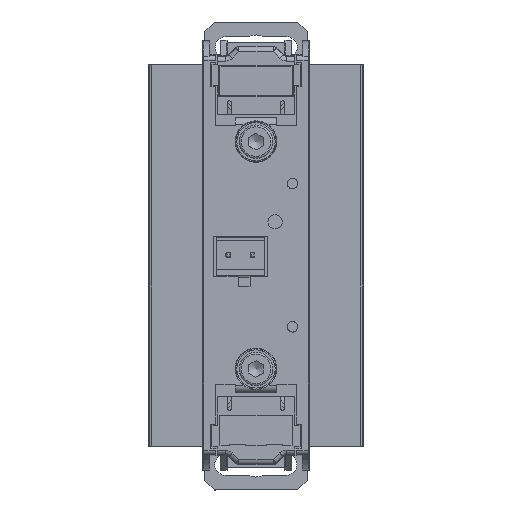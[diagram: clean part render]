
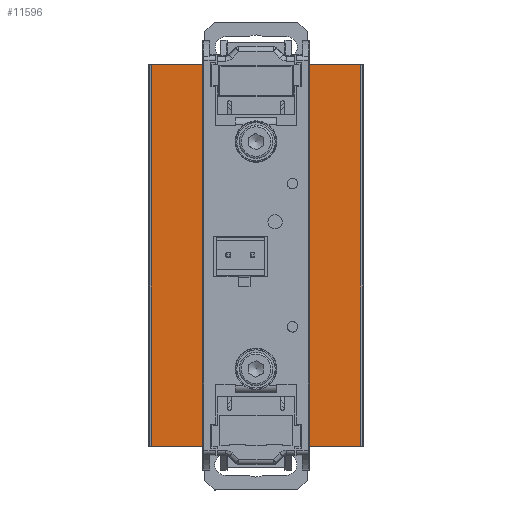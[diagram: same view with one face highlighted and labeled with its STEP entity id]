
A CAD part, top view. The second image highlights one B-rep face of the part: STEP entity #11596.
In plain terms, the highlighted planar face has unit normal (0, 0, 1) as drawn and (-0.706, 0.584, 0.402) by its records, which use the part's own axes.
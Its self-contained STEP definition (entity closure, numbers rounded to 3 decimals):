
#4144=CARTESIAN_POINT('',(33.476,29.839,23.555));
#4145=VERTEX_POINT('',#4144);
#4146=CARTESIAN_POINT('',(32.465,29.446,22.351));
#4147=DIRECTION('',(0.706,-0.584,-0.402));
#4148=DIRECTION('',(0.624,0.243,0.743));
#4149=AXIS2_PLACEMENT_3D('',#4146,#4147,#4148);
#4150=CIRCLE('',#4149,1.621);
#4151=EDGE_CURVE('',#4145,#4145,#4150,.T.);
#4223=CARTESIAN_POINT('',(49.461,66.728,-1.929));
#4224=VERTEX_POINT('',#4223);
#4225=CARTESIAN_POINT('',(48.449,66.335,-3.133));
#4226=DIRECTION('',(0.706,-0.584,-0.402));
#4227=DIRECTION('',(0.624,0.243,0.743));
#4228=AXIS2_PLACEMENT_3D('',#4225,#4226,#4227);
#4229=CIRCLE('',#4228,1.621);
#4230=EDGE_CURVE('',#4224,#4224,#4229,.T.);
#6650=CARTESIAN_POINT('',(67.587,84.217,4.496));
#6651=VERTEX_POINT('',#6650);
#6659=CARTESIAN_POINT('',(40.723,22.218,47.327));
#6660=VERTEX_POINT('',#6659);
#6661=CARTESIAN_POINT('',(67.587,84.217,4.496));
#6662=DIRECTION('',(-0.336,-0.775,0.535));
#6663=VECTOR('',#6662,80.);
#6664=LINE('',#6661,#6663);
#6665=EDGE_CURVE('',#6651,#6660,#6664,.T.);
#11542=CARTESIAN_POINT('',(13.327,11.564,14.721));
#11543=VERTEX_POINT('',#11542);
#11551=CARTESIAN_POINT('',(40.191,73.562,-28.11));
#11552=VERTEX_POINT('',#11551);
#11553=CARTESIAN_POINT('',(40.191,73.562,-28.11));
#11554=DIRECTION('',(-0.336,-0.775,0.535));
#11555=VECTOR('',#11554,80.);
#11556=LINE('',#11553,#11555);
#11557=EDGE_CURVE('',#11552,#11543,#11556,.T.);
#11569=CARTESIAN_POINT('',(10.614,7.931,15.233));
#11570=DIRECTION('',(-0.706,0.584,0.402));
#11571=DIRECTION('',(0.624,0.243,0.743));
#11572=AXIS2_PLACEMENT_3D('',#11569,#11570,#11571);
#11573=PLANE('',#11572);
#11574=CARTESIAN_POINT('',(13.327,11.564,14.721));
#11575=DIRECTION('',(0.624,0.243,0.743));
#11576=VECTOR('',#11575,43.9);
#11577=LINE('',#11574,#11576);
#11578=EDGE_CURVE('',#11543,#6660,#11577,.T.);
#11579=ORIENTED_EDGE('',*,*,#11578,.T.);
#11580=ORIENTED_EDGE('',*,*,#6665,.F.);
#11581=CARTESIAN_POINT('',(40.191,73.562,-28.11));
#11582=DIRECTION('',(0.624,0.243,0.743));
#11583=VECTOR('',#11582,43.9);
#11584=LINE('',#11581,#11583);
#11585=EDGE_CURVE('',#11552,#6651,#11584,.T.);
#11586=ORIENTED_EDGE('',*,*,#11585,.F.);
#11587=ORIENTED_EDGE('',*,*,#11557,.T.);
#11588=EDGE_LOOP('',(#11579,#11580,#11586,#11587));
#11589=FACE_OUTER_BOUND('',#11588,.T.);
#11590=ORIENTED_EDGE('',*,*,#4151,.T.);
#11591=EDGE_LOOP('',(#11590));
#11592=FACE_BOUND('',#11591,.T.);
#11593=ORIENTED_EDGE('',*,*,#4230,.T.);
#11594=EDGE_LOOP('',(#11593));
#11595=FACE_BOUND('',#11594,.T.);
#11596=ADVANCED_FACE('',(#11589,#11592,#11595),#11573,.T.);
